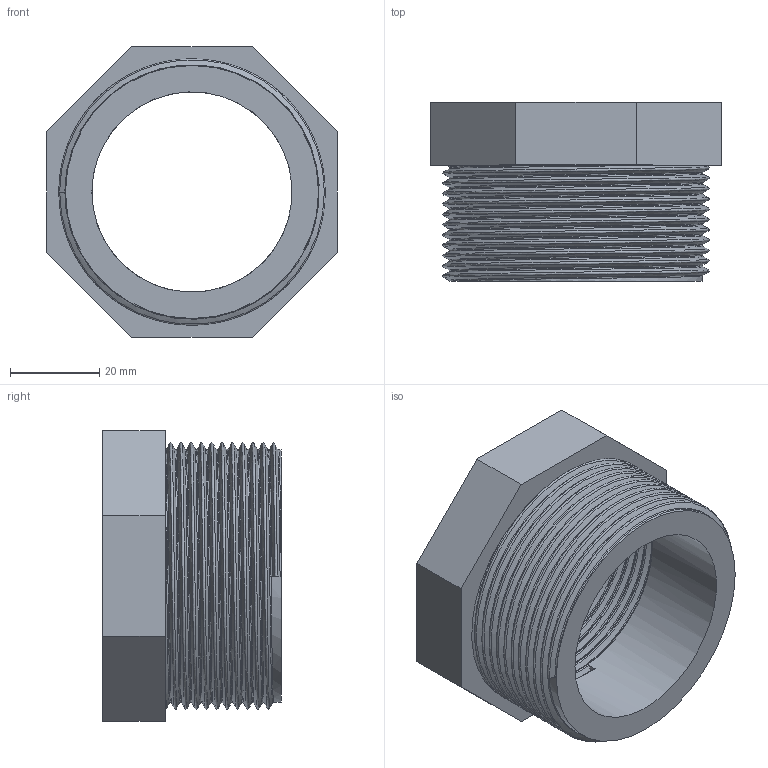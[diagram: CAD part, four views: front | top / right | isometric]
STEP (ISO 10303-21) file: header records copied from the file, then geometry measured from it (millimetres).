
FILE_DESCRIPTION(/* description */ ('PVC riduzione filettata BSP maschio-femmina'),/* implementation_level */ '2;1');
FILE_NAME(/* name */ 'C:\Users\POLYPIPE\Desktop\DATASET INVENTOR\LIBRERIA EFFAST\RACCORDI 3DxWEB\RER\3D_RERRCE\3D_RERRCE063F.stp',/* time_stamp */ '2018-01-19T16:58:32+01:00',/* author */ ('POLYPIPE'),/* organization */ ('Polypipe Italia s.r.l.'),/* preprocessor_version */ 'ST-DEVELOPER v16.1',/* originating_system */ 'Autodesk Inventor 2016',/* authorisation */ '');
FILE_SCHEMA (('CONFIG_CONTROL_DESIGN'));
Length unit declared in the file: millimetre
Products named in the file (1): 3D_RERRCE
Bounding box: 65 x 40 x 65 mm (x, y, z)
Volume: 52537.4 mm3; surface area: 22415.5 mm2
Topology: 1 solids, 1 shells, 25 faces, 62 edges, 40 vertices
Faces by surface type: plane 13, bspline 10, cylinder 2
Full cylindrical faces by diameter (mm): 44.845 x1, 56.656 x1
Entity records: 8427 total; most frequent: CARTESIAN_POINT 7880, ORIENTED_EDGE 120, DIRECTION 78, EDGE_CURVE 60, VERTEX_POINT 39, LINE 30, VECTOR 30, EDGE_LOOP 29
